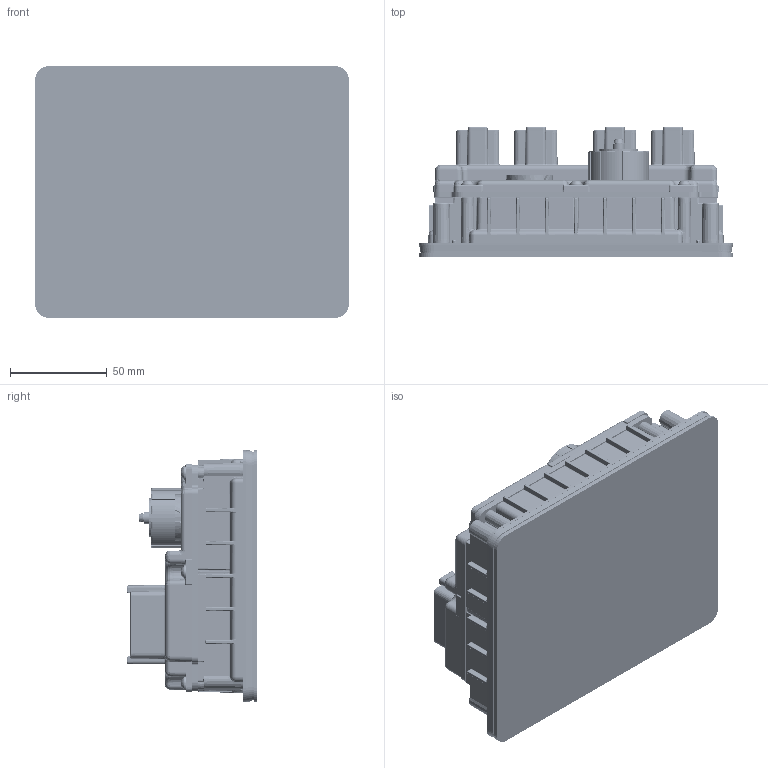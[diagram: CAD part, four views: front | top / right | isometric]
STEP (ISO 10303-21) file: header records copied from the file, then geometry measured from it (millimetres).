
FILE_DESCRIPTION(('FreeCAD Model'),'2;1');
FILE_NAME('Open CASCADE Shape Model','2024-08-13T18:03:15',(''),(''), 'Open CASCADE STEP processor 7.6','FreeCAD','Unknown');
FILE_SCHEMA(('AUTOMOTIVE_DESIGN { 1 0 10303 214 1 1 1 1 }'));
Length unit declared in the file: millimetre
Products named in the file (67): Assembly; LCS_Origin; Part_Front_Glas_Auto_Maskin_E; Body; LCS_Center_Front; LCS_Center_Back; Part_Adhesive_D; LCS_topp_center; LCS_bottom_center; TopCover_B; 7226-201-P12-TOP-COVER; LCS_touch_ass_interface; LCS_Cover_Lower_Right_Screw__Hole_1; LCS_Circuit_Screw_Hole_1; LCS_Circuit_Screw_Hole_2; LCS_Circuit_Screw_Hole_3; LCS_Circuit_Screw_Hole_4; LCS_Circuit_Screw_Hole_5; LCS_Circuit_Screw_Hole_6; LCS_Circuit_Screw_Hole_7; LCS_Cabinet_Gasket_Top_Left_Pin; LCS_Cover_Screw_Hole_2; LCS_Cover_Screw_Hole_3; LCS_Cover_Screw_Hole_4; LCS_Cover_Screw_Hole_5; LCS_Cover_Screw_Hole_6; LCS_Cover_Screw_Hole_7; LCS_Cover_Screw_Hole_8; Cabinet Gasket; LCS_Top_Cover_Interface; Housing Gasket; 1918-HMG571-1 Housing Gasket rev-B v1; LCS_Lower_Right_Hole_Front_Side; LCS_Lower_Right_Hole_Back_Side; Bottom Cover; 210E bottom cover v51; 7226-203-p8-bottom-cover v1; LCS_Lower_Right_Screw_Hole_1; LCS_Circuit_Board_Screw_Hole_1; LCS_Circuit_Board_Screw_Hole_2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
Assembly tree (82 placements, depth 5):
  Assembly
    LCS_Origin
    Part_Front_Glas_Auto_Maskin_E
      Body
      LCS_Center_Front
      LCS_Center_Back
    Part_Adhesive_D
      Body
      LCS_topp_center
      LCS_bottom_center
    TopCover_B
      7226-201-P12-TOP-COVER
      LCS_touch_ass_interface
      LCS_Cover_Lower_Right_Screw__Hole_1
      LCS_Circuit_Screw_Hole_1
      LCS_Circuit_Screw_Hole_2
      LCS_Circuit_Screw_Hole_3
      LCS_Circuit_Screw_Hole_4
      LCS_Circuit_Screw_Hole_5
      LCS_Circuit_Screw_Hole_6
      LCS_Circuit_Screw_Hole_7
      LCS_Cabinet_Gasket_Top_Left_Pin
      LCS_Cover_Screw_Hole_2
      LCS_Cover_Screw_Hole_3
      LCS_Cover_Screw_Hole_4
      LCS_Cover_Screw_Hole_5
      LCS_Cover_Screw_Hole_6
      LCS_Cover_Screw_Hole_7
      LCS_Cover_Screw_Hole_8
    Cabinet Gasket
      Body
      LCS_Top_Cover_Interface
    Housing Gasket
      1918-HMG571-1 Housing Gasket rev-B v1
      LCS_Lower_Right_Hole_Front_Side
      LCS_Lower_Right_Hole_Back_Side
    Bottom Cover
      210E bottom cover v51
        7226-203-p8-bottom-cover v1
      LCS_Lower_Right_Screw_Hole_1
      LCS_Circuit_Board_Screw_Hole_1
      LCS_Circuit_Board_Screw_Hole_2
      LCS_Circuit_Board_Screw_Hole_3
      LCS_Circuit_Board_Screw_Hole_4
      LCS_Circuit_Board_Screw_Hole_5
      LCS_Circuit_Board_Screw_Hole_6
      LCS_USB_Cover_Center_Top
    Housing Screws
      Part_Screw_210E_housing_A  x8
        STP38A0350120
        LCS_Screw_top
    DCU-210E-Connector-Circuit-Board-C
      Local_CS_9535
      Board_Geoms_9535
        Pcb_9535
      Step_Models_9535
        Top_9535
          J206_HM-FFC-SLW28R-1C7LF_0000525699ab  x2
          D200_HM-DO-201-BIDIR_000053445d13
          J203_HM-DT06-12_0000534462a5  x4
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Bounding box: 162 x 67.37 x 130.1 mm (x, y, z)
Volume: 197359.3 mm3; surface area: 223104.6 mm2
Topology: 29 solids, 29 shells, 11202 faces, 27212 edges, 16419 vertices
Faces by surface type: plane 3576, cylinder 3031, bspline 2870, cone 687, torus 640, sphere 300, revolution 98
Full cylindrical faces by diameter (mm): 0.8 x56, 1.2 x2, 1.56 x96, 1.7 x48, 1.75 x48, 2 x48, 2.6 x2, 3 x3, 3.1 x10, 3.3 x6, 3.5 x8, 3.8 x6, 4 x1, 4.07 x8, 5.309 x1, 5.314 x1, 6 x1, 20 x1, 25.5 x1
Entity records: 468807 total; most frequent: CARTESIAN_POINT 265638, ORIENTED_EDGE 45092, DIRECTION 37854, EDGE_CURVE 22546, AXIS2_PLACEMENT_3D 13878, VERTEX_POINT 13595, LINE 10072, VECTOR 10072
